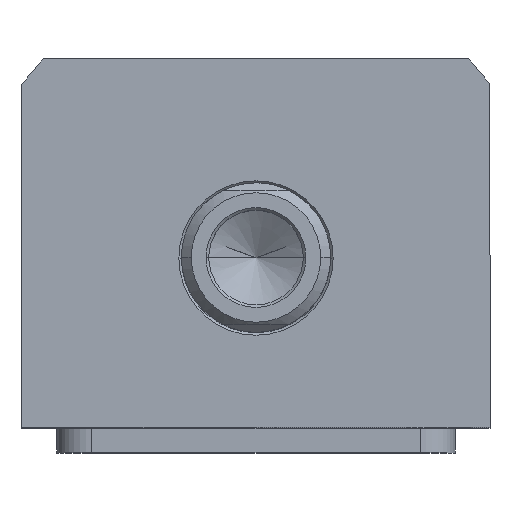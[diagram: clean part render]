
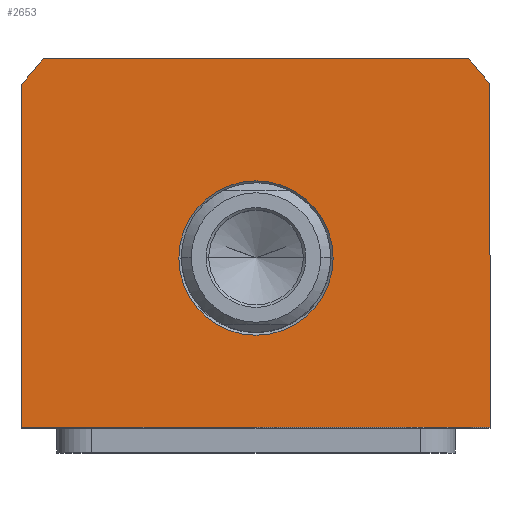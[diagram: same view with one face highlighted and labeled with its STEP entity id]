
A CAD part, top view. The second image highlights one B-rep face of the part: STEP entity #2653.
In plain terms, the highlighted planar face has unit normal (0, 0, 1).
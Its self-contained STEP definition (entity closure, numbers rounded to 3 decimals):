
#49 = CARTESIAN_POINT ( 'NONE',  ( -47., -34., 65. ) ) ;
#222 = LINE ( 'NONE', #7999, #8681 ) ;
#319 = EDGE_CURVE ( 'NONE', #3616, #10185, #9586, .T. ) ;
#1101 = DIRECTION ( 'NONE',  ( 0., -1., 0. ) ) ;
#1221 = VECTOR ( 'NONE', #1101, 1000. ) ;
#1603 = CARTESIAN_POINT ( 'NONE',  ( 47., 34.832, 65. ) ) ;
#1912 = VERTEX_POINT ( 'NONE', #3812 ) ;
#1982 = DIRECTION ( 'NONE',  ( 1., 0., 0. ) ) ;
#2094 = LINE ( 'NONE', #49, #1221 ) ;
#2306 = VECTOR ( 'NONE', #5012, 1000. ) ;
#2366 = ORIENTED_EDGE ( 'NONE', *, *, #2859, .T. ) ;
#2449 = EDGE_CURVE ( 'NONE', #11008, #1912, #10000, .T. ) ;
#2653 = ADVANCED_FACE ( 'NONE', ( #5269, #8858 ), #6337, .T. ) ;
#2859 = EDGE_CURVE ( 'NONE', #8698, #9255, #3988, .T. ) ;
#3129 = AXIS2_PLACEMENT_3D ( 'NONE', #4730, #9326, #1982 ) ;
#3204 = CARTESIAN_POINT ( 'NONE',  ( 0., 0., 65. ) ) ;
#3506 = EDGE_CURVE ( 'NONE', #10185, #11008, #5842, .T. ) ;
#3542 = CARTESIAN_POINT ( 'NONE',  ( 47., -34., 65. ) ) ;
#3616 = VERTEX_POINT ( 'NONE', #6672 ) ;
#3744 = CARTESIAN_POINT ( 'NONE',  ( 0., 0., 65. ) ) ;
#3812 = CARTESIAN_POINT ( 'NONE',  ( 42.688, 40., 65. ) ) ;
#3816 = CARTESIAN_POINT ( 'NONE',  ( -15.5, 0., 65. ) ) ;
#3988 = CIRCLE ( 'NONE', #9706, 15.5 ) ;
#4080 = ORIENTED_EDGE ( 'NONE', *, *, #5997, .T. ) ;
#4096 = DIRECTION ( 'NONE',  ( 1., 0., 0. ) ) ;
#4133 = DIRECTION ( 'NONE',  ( 0., 0., -1. ) ) ;
#4372 = EDGE_CURVE ( 'NONE', #5763, #6088, #7981, .T. ) ;
#4652 = AXIS2_PLACEMENT_3D ( 'NONE', #9858, #8982, #8105 ) ;
#4664 = DIRECTION ( 'NONE',  ( 1., 0., 0. ) ) ;
#4730 = CARTESIAN_POINT ( 'NONE',  ( 0., 0., 65. ) ) ;
#4739 = EDGE_LOOP ( 'NONE', ( #2366, #8232 ) ) ;
#4842 = VECTOR ( 'NONE', #7353, 1000. ) ;
#5012 = DIRECTION ( 'NONE',  ( 1., 0., 0. ) ) ;
#5146 = ORIENTED_EDGE ( 'NONE', *, *, #2449, .T. ) ;
#5269 = FACE_BOUND ( 'NONE', #4739, .T. ) ;
#5283 = CARTESIAN_POINT ( 'NONE',  ( 0., 0., 65. ) ) ;
#5374 = ORIENTED_EDGE ( 'NONE', *, *, #3506, .T. ) ;
#5763 = VERTEX_POINT ( 'NONE', #8182 ) ;
#5842 = LINE ( 'NONE', #11888, #4842 ) ;
#5910 = CIRCLE ( 'NONE', #4652, 15.5 ) ;
#5997 = EDGE_CURVE ( 'NONE', #1912, #5763, #222, .T. ) ;
#6088 = VERTEX_POINT ( 'NONE', #9825 ) ;
#6337 = PLANE ( 'NONE',  #10406 ) ;
#6672 = CARTESIAN_POINT ( 'NONE',  ( -47., -34., 65. ) ) ;
#7353 = DIRECTION ( 'NONE',  ( 0., 1., 0. ) ) ;
#7528 = EDGE_CURVE ( 'NONE', #9255, #8698, #5910, .T. ) ;
#7699 = ORIENTED_EDGE ( 'NONE', *, *, #9214, .T. ) ;
#7881 = AXIS2_PLACEMENT_3D ( 'NONE', #5283, #8961, #10860 ) ;
#7883 = DIRECTION ( 'NONE',  ( -1., 0., 0. ) ) ;
#7978 = ORIENTED_EDGE ( 'NONE', *, *, #4372, .T. ) ;
#7981 = CIRCLE ( 'NONE', #3129, 58.5 ) ;
#7999 = CARTESIAN_POINT ( 'NONE',  ( -42.688, 40., 65. ) ) ;
#8105 = DIRECTION ( 'NONE',  ( 1., 0., 0. ) ) ;
#8182 = CARTESIAN_POINT ( 'NONE',  ( -42.688, 40., 65. ) ) ;
#8216 = CARTESIAN_POINT ( 'NONE',  ( 15.5, 0., 65. ) ) ;
#8232 = ORIENTED_EDGE ( 'NONE', *, *, #7528, .T. ) ;
#8681 = VECTOR ( 'NONE', #7883, 1000. ) ;
#8698 = VERTEX_POINT ( 'NONE', #8216 ) ;
#8858 = FACE_OUTER_BOUND ( 'NONE', #11253, .T. ) ;
#8961 = DIRECTION ( 'NONE',  ( 0., 0., 1. ) ) ;
#8982 = DIRECTION ( 'NONE',  ( 0., 0., -1. ) ) ;
#9214 = EDGE_CURVE ( 'NONE', #6088, #3616, #2094, .T. ) ;
#9255 = VERTEX_POINT ( 'NONE', #3816 ) ;
#9326 = DIRECTION ( 'NONE',  ( 0., 0., 1. ) ) ;
#9586 = LINE ( 'NONE', #11353, #2306 ) ;
#9706 = AXIS2_PLACEMENT_3D ( 'NONE', #3204, #4133, #4096 ) ;
#9825 = CARTESIAN_POINT ( 'NONE',  ( -47., 34.832, 65. ) ) ;
#9858 = CARTESIAN_POINT ( 'NONE',  ( 0., 0., 65. ) ) ;
#10000 = CIRCLE ( 'NONE', #7881, 58.5 ) ;
#10147 = DIRECTION ( 'NONE',  ( 0., 0., 1. ) ) ;
#10185 = VERTEX_POINT ( 'NONE', #3542 ) ;
#10406 = AXIS2_PLACEMENT_3D ( 'NONE', #3744, #10147, #4664 ) ;
#10530 = ORIENTED_EDGE ( 'NONE', *, *, #319, .T. ) ;
#10860 = DIRECTION ( 'NONE',  ( 1., 0., 0. ) ) ;
#11008 = VERTEX_POINT ( 'NONE', #1603 ) ;
#11253 = EDGE_LOOP ( 'NONE', ( #10530, #5374, #5146, #4080, #7978, #7699 ) ) ;
#11353 = CARTESIAN_POINT ( 'NONE',  ( 47., -34., 65. ) ) ;
#11888 = CARTESIAN_POINT ( 'NONE',  ( 47., 34.832, 65. ) ) ;
